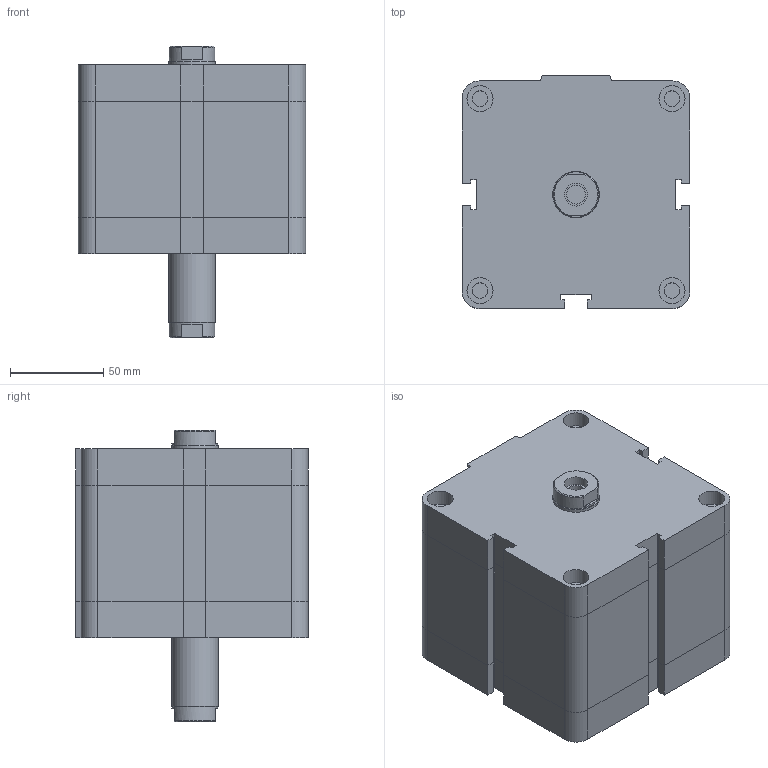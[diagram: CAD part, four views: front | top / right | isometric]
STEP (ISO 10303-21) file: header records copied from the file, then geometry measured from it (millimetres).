
FILE_DESCRIPTION((''),'2;1');
FILE_NAME('I:\Area Tecnica\Disegni\VARIE-3D\Componenti\EUROPE\15##_###_####_03_#\1581_100_0035_03_1.iam.stp','2009-04-20T14:38:36',(''),(''),'Autodesk Inventor 2009','Autodesk Inventor 2009','');
FILE_SCHEMA(('AUTOMOTIVE_DESIGN { 1 0 10303 214 1 1 1 1 }'));
Length unit declared in the file: millimetre
Products named in the file (3): 1581_100_0035_03_1; 1581_100_0035_03_1_C; 1561_100_0035_03_1_S
Assembly tree (2 placements, depth 2):
  1581_100_0035_03_1
    1581_100_0035_03_1_C
    1561_100_0035_03_1_S
Bounding box: 122 x 125 x 156.5 mm (x, y, z)
Volume: 1487411.5 mm3; surface area: 113227.5 mm2
Topology: 2 solids, 2 shells, 174 faces, 379 edges, 231 vertices
Faces by surface type: plane 114, bspline 29, cylinder 25, cone 6
Full cylindrical faces by diameter (mm): 8.376 x4, 10.106 x1, 12.3 x1, 14 x4, 24.5 x2, 25 x1
Entity records: 4758 total; most frequent: CARTESIAN_POINT 1020, DIRECTION 708, ORIENTED_EDGE 676, EDGE_CURVE 338, VECTOR 252, LINE 252, AXIS2_PLACEMENT_3D 228, EDGE_LOOP 226
